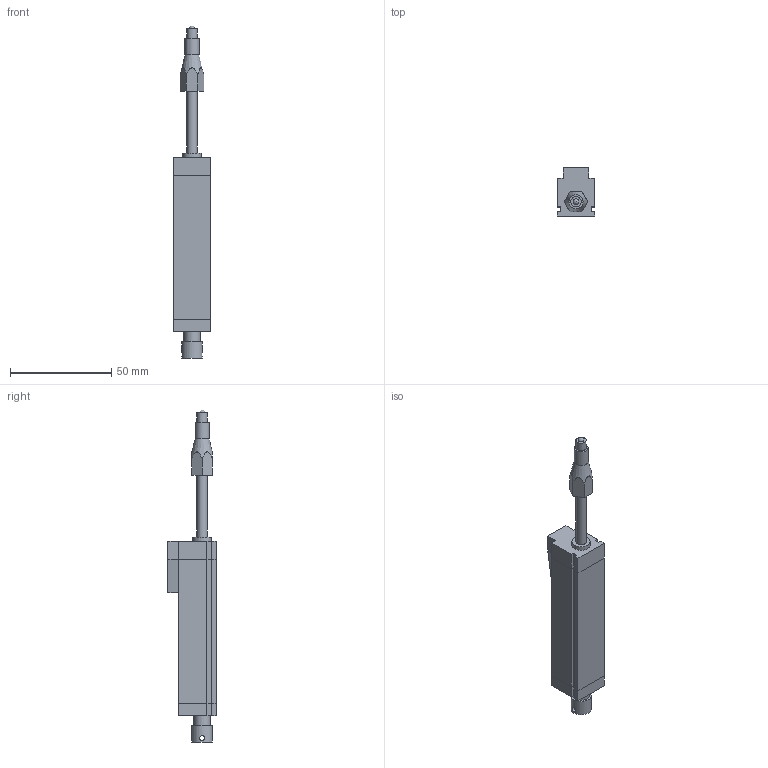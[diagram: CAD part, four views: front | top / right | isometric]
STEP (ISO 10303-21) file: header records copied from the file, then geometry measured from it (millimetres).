
FILE_DESCRIPTION(/* description */ ('','CAx-IF Rec.Pracs.---Representation and Presentation of Product Manufacturing Information (PMI)---3.8---2014-02-18'),/* implementation_level */ '2;1');
FILE_NAME(/* name */ 'C:\Users\JN\Documents\CAD Drawings\The Sensor Connection\3D\LPPS\LPPS-SL-25.stp',/* time_stamp */ '2017-01-05T12:35:13-05:00',/* author */ ('JN'),/* organization */ (''),/* preprocessor_version */ 'ST-DEVELOPER v16.5',/* originating_system */ 'Autodesk Inventor LT',/* authorisation */ '');
FILE_SCHEMA (('AP242_MANAGED_MODEL_BASED_3D_ENGINEERING_MIM_LF { 1 0 10303 442 1 1 4 }'));
Length unit declared in the file: inch
Products named in the file (1): LPPS-SL-25
Bounding box: 18.29 x 23.88 x 163.84 mm (x, y, z)
Volume: 33259 mm3; surface area: 11844.2 mm2
Topology: 5 solids, 5 shells, 78 faces, 189 edges, 125 vertices
Faces by surface type: plane 67, cylinder 9, cone 1, sphere 1
Full cylindrical faces by diameter (mm): 2.388 x2, 5.08 x2, 6.96 x1, 7.206 x1, 8.103 x1, 9.042 x1, 10 x1
Entity records: 2323 total; most frequent: CARTESIAN_POINT 510, ORIENTED_EDGE 336, DIRECTION 331, EDGE_CURVE 168, LINE 141, VECTOR 141, VERTEX_POINT 117, EDGE_LOOP 99
